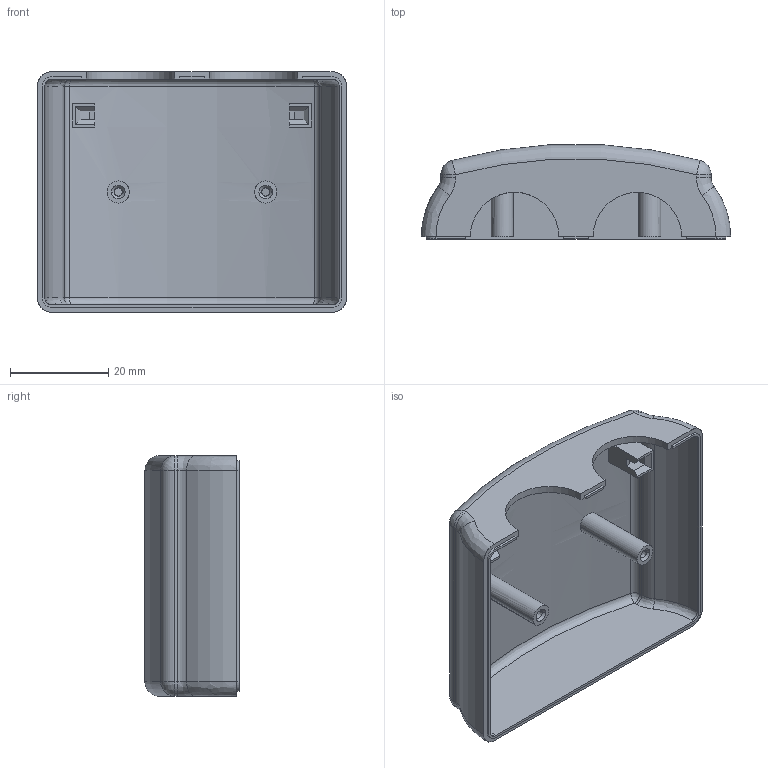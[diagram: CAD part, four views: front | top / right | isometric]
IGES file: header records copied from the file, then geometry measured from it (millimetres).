
Global section: file name: Filename.iges; native system: Open CASCADE 7.5; preprocessor: Open CASCADE IGES processor 7.5; date: 20210414.164134; units: millimetre
Bounding box: 63 x 19.2 x 49 mm (x, y, z)
Surface area: 12479.1 mm2 (no closed solid volume)
Topology: 0 solids, 0 shells, 128 faces, 616 edges, 616 vertices
Faces by surface type: revolution 76, bspline 52
